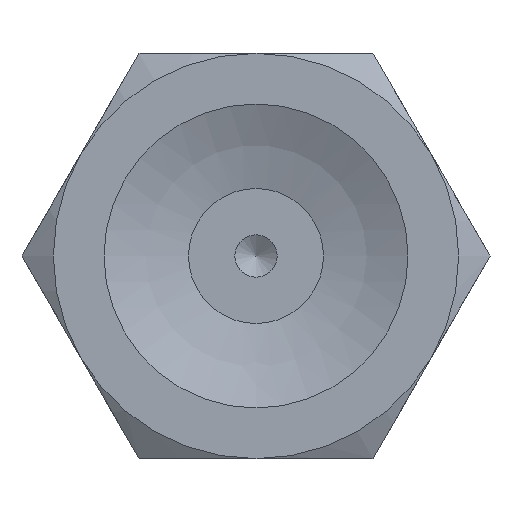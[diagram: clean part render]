
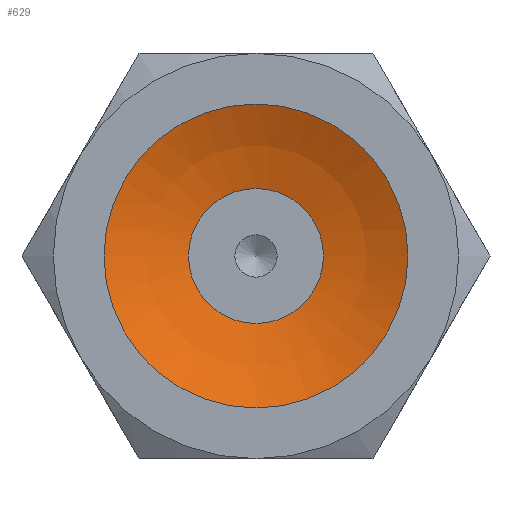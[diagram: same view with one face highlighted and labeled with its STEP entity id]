
A CAD part, front view. The second image highlights one B-rep face of the part: STEP entity #629.
In plain terms, the highlighted spherical face has radius 10.203 mm.
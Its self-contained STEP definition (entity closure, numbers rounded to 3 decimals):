
#629=ADVANCED_FACE('',(#939,#940),#941,.F.);
#939=FACE_OUTER_BOUND('',#1284,.T.);
#940=FACE_OUTER_BOUND('',#1285,.T.);
#941=SPHERICAL_SURFACE('',#1286,10.203);
#1284=EDGE_LOOP('',(#2070));
#1285=EDGE_LOOP('',(#2071));
#1286=AXIS2_PLACEMENT_3D('',#2072,#2073,#2074);
#2070=ORIENTED_EDGE('',*,*,#2374,.T.);
#2071=ORIENTED_EDGE('',*,*,#2387,.F.);
#2072=CARTESIAN_POINT('',(0.,-9.157,0.));
#2073=DIRECTION('',(0.0,-1.0,0.));
#2074=DIRECTION('',(1.0,0.0,0.0));
#2374=EDGE_CURVE('',#2714,#2714,#2715,.T.);
#2387=EDGE_CURVE('',#2740,#2740,#2741,.T.);
#2714=VERTEX_POINT('',#3660);
#2715=CIRCLE('',#3661,4.5);
#2740=VERTEX_POINT('',#3686);
#2741=CIRCLE('',#3687,2.);
#3660=CARTESIAN_POINT('',(0.0,0.,-4.5));
#3661=AXIS2_PLACEMENT_3D('',#4024,#4025,#4026);
#3686=CARTESIAN_POINT('',(0.0,0.848,-2.));
#3687=AXIS2_PLACEMENT_3D('',#4063,#4064,#4065);
#4024=CARTESIAN_POINT('',(0.0,0.,0.0));
#4025=DIRECTION('',(0.0,-1.0,0.));
#4026=DIRECTION('',(0.0,0.,-1.0));
#4063=CARTESIAN_POINT('',(0.0,0.848,0.0));
#4064=DIRECTION('',(0.0,-1.0,0.));
#4065=DIRECTION('',(0.0,0.,-1.0));
